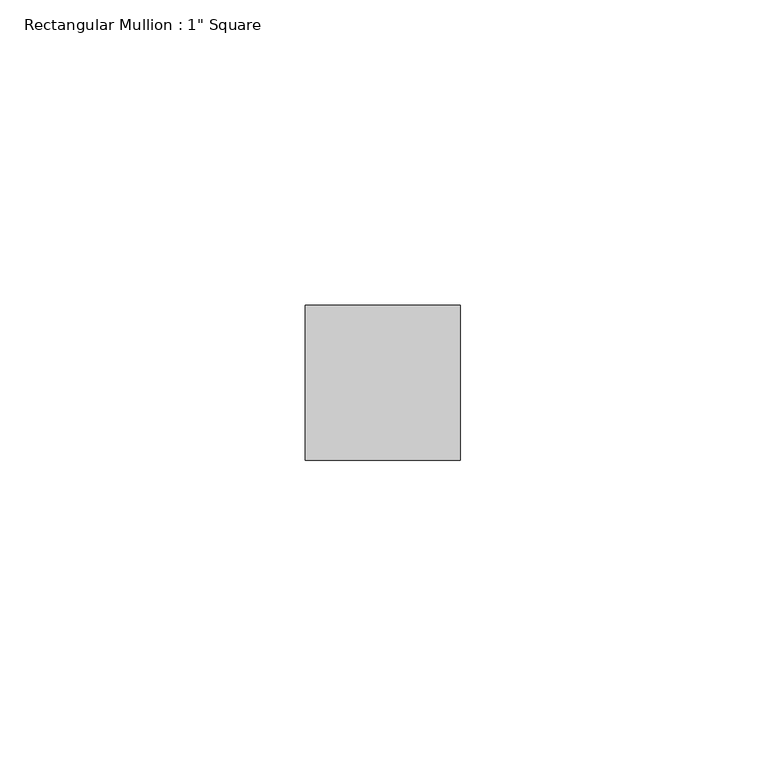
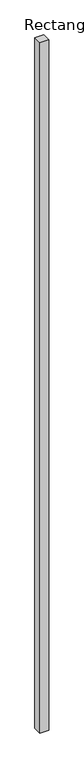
"""IFC4 building model written with IfcOpenShell, lengths in millimetres: member geometry."""

from ifc_helpers import new_model, si_unit, frame, origin, place, context, project, spatial, polyline, outline, extrude, source, transform, mapped, element, save


def member_56577a18(model_context):
    return source(origin(), model_context, "Body", "SweptSolid", [
        extrude(outline(polyline([(0.0, 12.7), (0.0, -12.7), (-25.4, -12.7), (-25.4, 12.7), (0.0, 12.7)])), frame((0.0, 0.0, -2117.1614691), z_axis=(0.0, 0.0, 1.0), x_axis=(1.0, 0.0, 0.0)), (0.0, 0.0, 1.0), 2117.1614691),
    ])


if __name__ == "__main__":
    model = new_model("IFC4")
    model_context = context("Model", 3, world=origin())
    ifc_project = project(units=[si_unit("LENGTHUNIT", "METRE", prefix="MILLI")], contexts=[model_context])
    site = spatial("IfcSite", under=ifc_project)
    building = spatial("IfcBuilding", under=site)
    placement = place(None, origin())
    member_shape = member_56577a18(model_context)
    element("IfcMember", 1, ObjectType="Rectangular Mullion : 1\" Square", at=placement, inside=building, context=model_context, shape_type="MappedRepresentation", body=[
        mapped(member_shape, transform((0.0, 0.0, 0.0), x_axis=(1.0, 0.0, 0.0), y_axis=(0.0, 1.0, 0.0), z_axis=(0.0, 0.0, 1.0))),
    ])
    save(model, "model.ifc")
